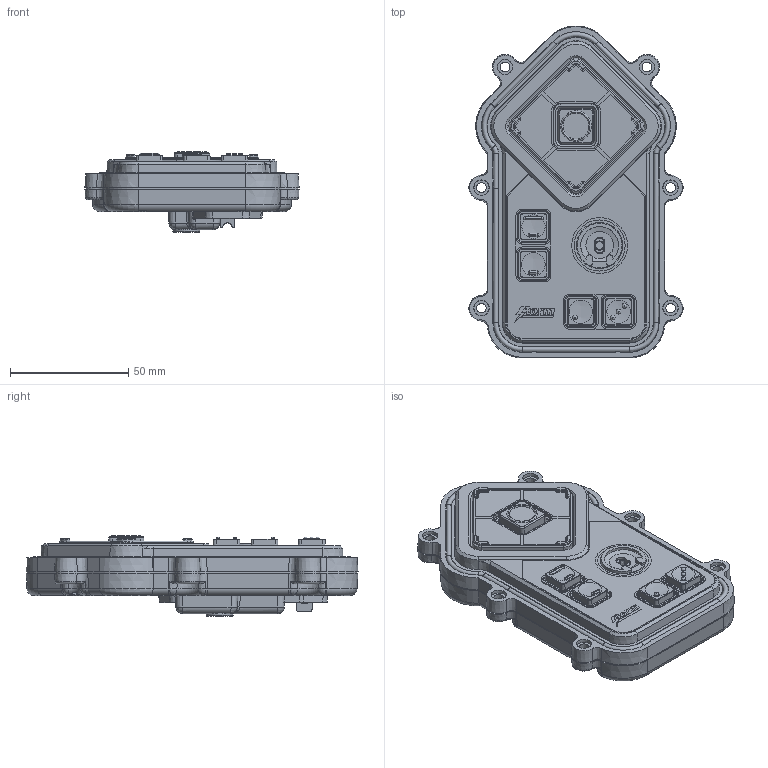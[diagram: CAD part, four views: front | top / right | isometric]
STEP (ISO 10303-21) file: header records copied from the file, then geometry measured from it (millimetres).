
FILE_DESCRIPTION (( 'STEP AP214' ), '1' );
FILE_NAME ('1409-34001~1 Vertical.STEP', '2019-08-08T10:10:11', ( '' ), ( '' ), 'SwSTEP 2.0', 'SolidWorks 2018', '' );
FILE_SCHEMA (( 'AUTOMOTIVE_DESIGN' ));
Length unit declared in the file: millimetre
Products named in the file (1): 1409-34001~1 Vertical
Bounding box: 90.63 x 140.46 x 33.94 mm (x, y, z)
Volume: 173568 mm3; surface area: 69809.5 mm2
Topology: 2 solids, 33 shells, 3123 faces, 8325 edges, 5296 vertices
Faces by surface type: plane 1623, cone 493, cylinder 460, bspline 268, torus 219, sphere 60
Full cylindrical faces by diameter (mm): 2 x8, 2.6 x1, 5.3 x7, 11 x1, 19.6 x1, 21.6 x1, 23.6 x1
Entity records: 144504 total; most frequent: CARTESIAN_POINT 36834, ORIENTED_EDGE 16246, DIRECTION 14548, EDGE_CURVE 8123, VERTEX_POINT 5252, AXIS2_PLACEMENT_3D 4963, VECTOR 4622, LINE 4622
